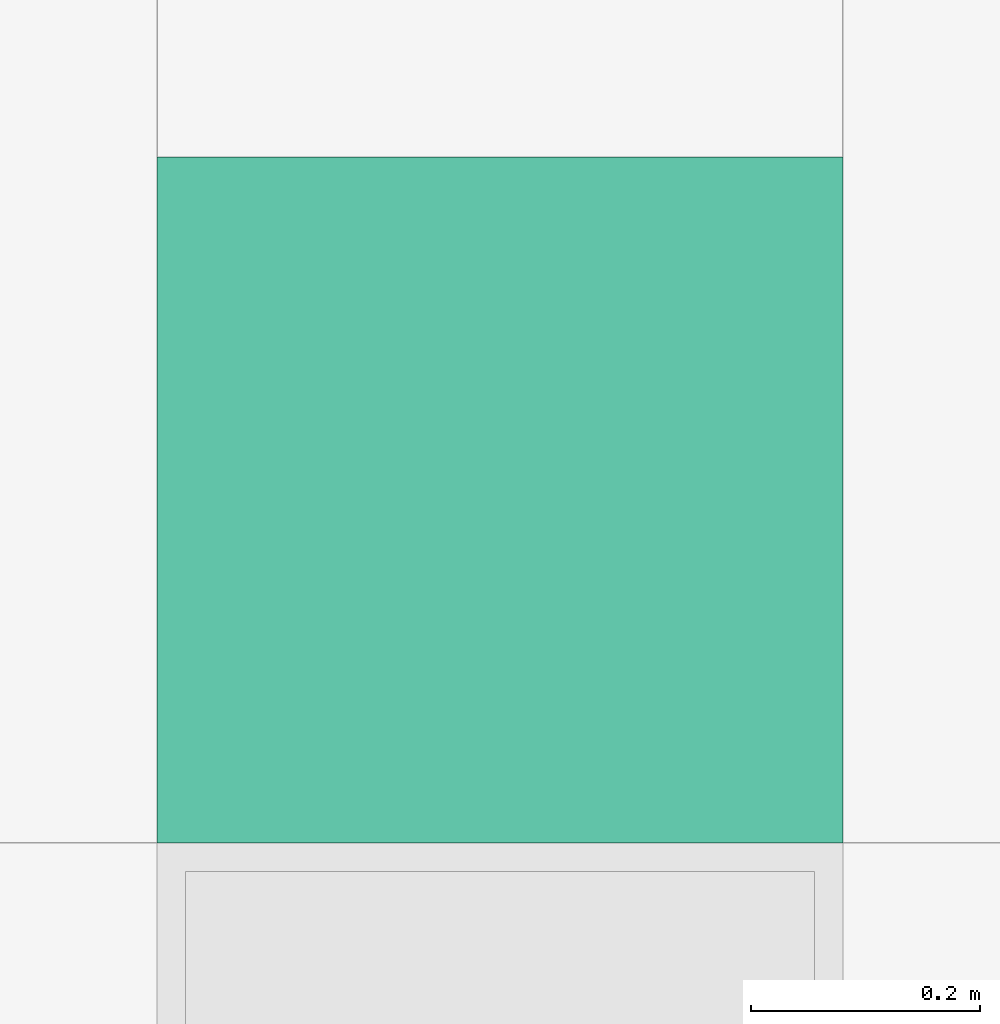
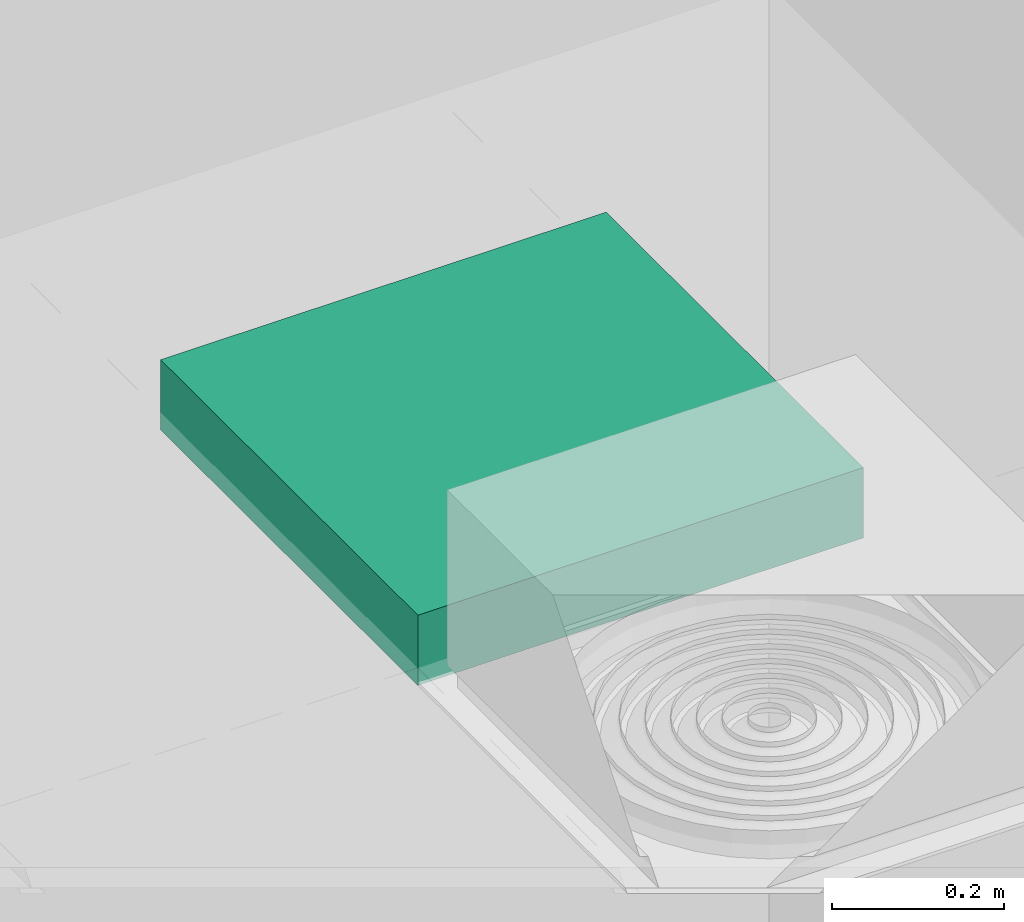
# One storey, part 288 of 347: 1 flow terminal.
"""IFC2X3 building model written with IfcOpenShell, lengths in millimetres."""

from ifc_helpers import new_model, entity, si_unit, converted_unit, derived_unit, money_unit, direction, frame, origin_with_axes, place, context, subcontext, project, spatial, open_shell, faceted_brep, surface_model, source, transform, mapped, type_object, type_shapes, element, save


model = new_model("IFC2X3")

# Units and contexts
model_context = context("Model", 3, precision=0.01, world=origin_with_axes(), true_north=direction((0.0, 1.0)))
plan_context = context("Plan", 3, precision=0.01, world=origin_with_axes(), true_north=direction((0.0, 1.0)))
body_context = subcontext(model_context, "Body", "Model", "MODEL_VIEW")
ifc_project = project(units=[si_unit("LENGTHUNIT", "METRE", prefix="MILLI"), si_unit("AREAUNIT", "SQUARE_METRE"), si_unit("VOLUMEUNIT", "CUBIC_METRE"), converted_unit("PLANEANGLEUNIT", "DEGREE", entity("IfcPlaneAngleMeasure", 0.0174532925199), si_unit("PLANEANGLEUNIT", "RADIAN"), dimensions=[0, 0, 0, 0, 0, 0, 0]), money_unit("EUR"), converted_unit("TIMEUNIT", "Year", entity("IfcTimeMeasure", 31556926.0), si_unit("TIMEUNIT", "SECOND"), dimensions=[0, 0, 1, 0, 0, 0, 0]), si_unit("MASSUNIT", "GRAM", prefix="KILO"), si_unit("THERMODYNAMICTEMPERATUREUNIT", "DEGREE_CELSIUS"), si_unit("LUMINOUSINTENSITYUNIT", "LUMEN"), si_unit("ENERGYUNIT", "JOULE", prefix="MEGA"), derived_unit("THERMALCONDUCTANCEUNIT", [(si_unit("POWERUNIT", "WATT"), 1), (si_unit("LENGTHUNIT", "METRE"), -1), (si_unit("THERMODYNAMICTEMPERATUREUNIT", "KELVIN"), -1)]), derived_unit("SPECIFICHEATCAPACITYUNIT", [(si_unit("ENERGYUNIT", "JOULE"), 1), (si_unit("MASSUNIT", "GRAM", prefix="KILO"), -1), (si_unit("THERMODYNAMICTEMPERATUREUNIT", "KELVIN"), -1)]), derived_unit("MASSDENSITYUNIT", [(si_unit("MASSUNIT", "GRAM", prefix="KILO"), 1), (si_unit("VOLUMEUNIT", "CUBIC_METRE"), -1)])], contexts=[model_context, plan_context])

# Site, building, storey
site_placement = place(None, origin_with_axes())
site = spatial("IfcSite", under=ifc_project, at=site_placement, Name="Site", CompositionType="ELEMENT")
building_placement = place(site_placement, origin_with_axes())
building = spatial("IfcBuilding", under=site, at=building_placement, Name="Naam gebouw", CompositionType="ELEMENT")
storey_placement = place(building_placement, origin_with_axes())
storey = spatial("IfcBuildingStorey", under=building, at=storey_placement, Name="begane grond", CompositionType="ELEMENT", Elevation=0.0)

# Flow terminal
lamp_type = type_object("IfcLampType", Name="TL plafond 25", PredefinedType="NOTDEFINED")
shared_shape = source(origin_with_axes(), body_context, "Body", "SurfaceModel", [
    faceted_brep([(0.0, 0.0, -100.0), (0.0, 0.0, 0.0), (-600.0, 0.0, 0.0), (-600.0, 0.0, -100.0), (0.0, 600.0, -100.0), (0.0, 600.0, 0.0), (-600.0, 600.0, 0.0), (-40.0, 40.0, 0.0), (-560.0, 40.0, 0.0), (-560.0, 560.0, 0.0), (-40.0, 560.0, 0.0), (-600.0, 600.0, -100.0), (-40.0, 40.0, -100.0), (-40.0, 560.0, -100.0), (-560.0, 560.0, -100.0), (-560.0, 40.0, -100.0)], [[[0, 1, 2, 3]], [[4, 5, 1, 0]], [[1, 5, 6, 2], [7, 8, 9, 10]], [[3, 2, 6, 11]], [[0, 3, 11, 4], [12, 13, 14, 15]], [[11, 6, 5, 4]], [[15, 8, 7, 12]], [[14, 9, 8, 15]], [[13, 10, 9, 14]], [[12, 7, 10, 13]]]),
    faceted_brep([(-40.0, 40.0, -16.3333333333), (-40.0, 40.0, 0.0), (-560.0, 40.0, 0.0), (-560.0, 40.0, -16.3333333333), (-40.0, 560.0, -16.3333333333), (-40.0, 560.0, 0.0), (-560.0, 560.0, 0.0), (-560.0, 560.0, -16.3333333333)], [[[0, 1, 2, 3]], [[4, 5, 1, 0]], [[1, 5, 6, 2]], [[3, 2, 6, 7]], [[0, 3, 7, 4]], [[7, 6, 5, 4]]]),
    surface_model("IfcShellBasedSurfaceModel", [(-559.0, 41.0, -100.0), (-559.0, 559.0, -100.0), (-40.0, 559.0, -100.0), (-40.0, 41.0, -100.0)], [open_shell([[[0, 1, 2, 3]]])]),
    faceted_brep([(-40.0, 40.0, -100.0), (-40.0, 40.0, -60.0), (-560.0, 40.0, -60.0), (-560.0, 40.0, -100.0), (-40.0, 560.0, -100.0), (-40.0, 560.0, -60.0), (-560.0, 560.0, -60.0), (-41.0, 41.0, -60.0), (-559.0, 41.0, -60.0), (-559.0, 559.0, -60.0), (-41.0, 559.0, -60.0), (-560.0, 560.0, -100.0), (-41.0, 41.0, -100.0), (-41.0, 559.0, -100.0), (-559.0, 559.0, -100.0), (-559.0, 41.0, -100.0)], [[[0, 1, 2, 3]], [[4, 5, 1, 0]], [[1, 5, 6, 2], [7, 8, 9, 10]], [[3, 2, 6, 11]], [[0, 3, 11, 4], [12, 13, 14, 15]], [[11, 6, 5, 4]], [[15, 8, 7, 12]], [[14, 9, 8, 15]], [[13, 10, 9, 14]], [[12, 7, 10, 13]]]),
    faceted_brep([(-40.0, 144.0, -48.3333333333), (-560.0, 144.0, -48.3333333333), (-560.0, 149.740251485, -47.191526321), (-40.0, 149.740251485, -47.191526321), (-40.0, 138.259748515, -47.191526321), (-560.0, 138.259748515, -47.191526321), (-560.0, 133.393398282, -43.9399350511), (-560.0, 130.141807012, -39.0735848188), (-560.0, 129.0, -33.3333333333), (-560.0, 130.141807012, -27.5930818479), (-560.0, 133.393398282, -22.7267316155), (-560.0, 138.259748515, -19.4751403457), (-560.0, 144.0, -18.3333333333), (-560.0, 149.740251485, -19.4751403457), (-560.0, 154.606601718, -22.7267316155), (-560.0, 157.858192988, -27.5930818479), (-560.0, 159.0, -33.3333333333), (-560.0, 157.858192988, -39.0735848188), (-560.0, 154.606601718, -43.9399350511), (-560.0, 144.0, -46.3333333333), (-560.0, 148.974884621, -45.343767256), (-560.0, 153.192388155, -42.5257214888), (-560.0, 156.010433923, -38.3082179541), (-560.0, 157.0, -33.3333333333), (-560.0, 156.010433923, -28.3584487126), (-560.0, 153.192388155, -24.1409451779), (-560.0, 148.974884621, -21.3228994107), (-560.0, 144.0, -20.3333333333), (-560.0, 139.025115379, -21.3228994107), (-560.0, 134.807611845, -24.1409451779), (-560.0, 131.989566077, -28.3584487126), (-560.0, 131.0, -33.3333333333), (-560.0, 131.989566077, -38.3082179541), (-560.0, 134.807611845, -42.5257214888), (-560.0, 139.025115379, -45.343767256), (-40.0, 154.606601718, -43.9399350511), (-40.0, 157.858192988, -39.0735848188), (-40.0, 159.0, -33.3333333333), (-40.0, 157.858192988, -27.5930818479), (-40.0, 154.606601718, -22.7267316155), (-40.0, 149.740251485, -19.4751403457), (-40.0, 144.0, -18.3333333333), (-40.0, 138.259748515, -19.4751403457), (-40.0, 133.393398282, -22.7267316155), (-40.0, 130.141807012, -27.5930818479), (-40.0, 129.0, -33.3333333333), (-40.0, 130.141807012, -39.0735848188), (-40.0, 133.393398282, -43.9399350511), (-40.0, 144.0, -46.3333333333), (-40.0, 139.025115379, -45.343767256), (-40.0, 134.807611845, -42.5257214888), (-40.0, 131.989566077, -38.3082179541), (-40.0, 131.0, -33.3333333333), (-40.0, 131.989566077, -28.3584487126), (-40.0, 134.807611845, -24.1409451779), (-40.0, 139.025115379, -21.3228994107), (-40.0, 144.0, -20.3333333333), (-40.0, 148.974884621, -21.3228994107), (-40.0, 153.192388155, -24.1409451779), (-40.0, 156.010433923, -28.3584487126), (-40.0, 157.0, -33.3333333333), (-40.0, 156.010433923, -38.3082179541), (-40.0, 153.192388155, -42.5257214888), (-40.0, 148.974884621, -45.343767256)], [[[0, 1, 2, 3]], [[4, 5, 1, 0]], [[1, 5, 6, 7, 8, 9, 10, 11, 12, 13, 14, 15, 16, 17, 18, 2], [19, 20, 21, 22, 23, 24, 25, 26, 27, 28, 29, 30, 31, 32, 33, 34]], [[3, 2, 18, 35]], [[0, 3, 35, 36, 37, 38, 39, 40, 41, 42, 43, 44, 45, 46, 47, 4], [48, 49, 50, 51, 52, 53, 54, 55, 56, 57, 58, 59, 60, 61, 62, 63]], [[47, 6, 5, 4]], [[46, 7, 6, 47]], [[45, 8, 7, 46]], [[44, 9, 8, 45]], [[43, 10, 9, 44]], [[42, 11, 10, 43]], [[41, 12, 11, 42]], [[40, 13, 12, 41]], [[39, 14, 13, 40]], [[38, 15, 14, 39]], [[37, 16, 15, 38]], [[36, 17, 16, 37]], [[35, 18, 17, 36]], [[63, 20, 19, 48]], [[62, 21, 20, 63]], [[61, 22, 21, 62]], [[60, 23, 22, 61]], [[59, 24, 23, 60]], [[58, 25, 24, 59]], [[57, 26, 25, 58]], [[56, 27, 26, 57]], [[55, 28, 27, 56]], [[54, 29, 28, 55]], [[53, 30, 29, 54]], [[52, 31, 30, 53]], [[51, 32, 31, 52]], [[50, 33, 32, 51]], [[49, 34, 33, 50]], [[48, 19, 34, 49]]]),
    faceted_brep([(-40.0, 248.0, -48.3333333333), (-560.0, 248.0, -48.3333333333), (-560.0, 253.740251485, -47.191526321), (-40.0, 253.740251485, -47.191526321), (-40.0, 242.259748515, -47.191526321), (-560.0, 242.259748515, -47.191526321), (-560.0, 237.393398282, -43.9399350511), (-560.0, 234.141807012, -39.0735848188), (-560.0, 233.0, -33.3333333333), (-560.0, 234.141807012, -27.5930818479), (-560.0, 237.393398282, -22.7267316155), (-560.0, 242.259748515, -19.4751403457), (-560.0, 248.0, -18.3333333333), (-560.0, 253.740251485, -19.4751403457), (-560.0, 258.606601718, -22.7267316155), (-560.0, 261.858192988, -27.5930818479), (-560.0, 263.0, -33.3333333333), (-560.0, 261.858192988, -39.0735848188), (-560.0, 258.606601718, -43.9399350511), (-560.0, 248.0, -46.3333333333), (-560.0, 252.974884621, -45.343767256), (-560.0, 257.192388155, -42.5257214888), (-560.0, 260.010433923, -38.3082179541), (-560.0, 261.0, -33.3333333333), (-560.0, 260.010433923, -28.3584487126), (-560.0, 257.192388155, -24.1409451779), (-560.0, 252.974884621, -21.3228994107), (-560.0, 248.0, -20.3333333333), (-560.0, 243.025115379, -21.3228994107), (-560.0, 238.807611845, -24.1409451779), (-560.0, 235.989566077, -28.3584487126), (-560.0, 235.0, -33.3333333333), (-560.0, 235.989566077, -38.3082179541), (-560.0, 238.807611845, -42.5257214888), (-560.0, 243.025115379, -45.343767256), (-40.0, 258.606601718, -43.9399350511), (-40.0, 261.858192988, -39.0735848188), (-40.0, 263.0, -33.3333333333), (-40.0, 261.858192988, -27.5930818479), (-40.0, 258.606601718, -22.7267316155), (-40.0, 253.740251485, -19.4751403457), (-40.0, 248.0, -18.3333333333), (-40.0, 242.259748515, -19.4751403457), (-40.0, 237.393398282, -22.7267316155), (-40.0, 234.141807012, -27.5930818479), (-40.0, 233.0, -33.3333333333), (-40.0, 234.141807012, -39.0735848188), (-40.0, 237.393398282, -43.9399350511), (-40.0, 248.0, -46.3333333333), (-40.0, 243.025115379, -45.343767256), (-40.0, 238.807611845, -42.5257214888), (-40.0, 235.989566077, -38.3082179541), (-40.0, 235.0, -33.3333333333), (-40.0, 235.989566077, -28.3584487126), (-40.0, 238.807611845, -24.1409451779), (-40.0, 243.025115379, -21.3228994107), (-40.0, 248.0, -20.3333333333), (-40.0, 252.974884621, -21.3228994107), (-40.0, 257.192388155, -24.1409451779), (-40.0, 260.010433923, -28.3584487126), (-40.0, 261.0, -33.3333333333), (-40.0, 260.010433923, -38.3082179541), (-40.0, 257.192388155, -42.5257214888), (-40.0, 252.974884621, -45.343767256)], [[[0, 1, 2, 3]], [[4, 5, 1, 0]], [[1, 5, 6, 7, 8, 9, 10, 11, 12, 13, 14, 15, 16, 17, 18, 2], [19, 20, 21, 22, 23, 24, 25, 26, 27, 28, 29, 30, 31, 32, 33, 34]], [[3, 2, 18, 35]], [[0, 3, 35, 36, 37, 38, 39, 40, 41, 42, 43, 44, 45, 46, 47, 4], [48, 49, 50, 51, 52, 53, 54, 55, 56, 57, 58, 59, 60, 61, 62, 63]], [[47, 6, 5, 4]], [[46, 7, 6, 47]], [[45, 8, 7, 46]], [[44, 9, 8, 45]], [[43, 10, 9, 44]], [[42, 11, 10, 43]], [[41, 12, 11, 42]], [[40, 13, 12, 41]], [[39, 14, 13, 40]], [[38, 15, 14, 39]], [[37, 16, 15, 38]], [[36, 17, 16, 37]], [[35, 18, 17, 36]], [[63, 20, 19, 48]], [[62, 21, 20, 63]], [[61, 22, 21, 62]], [[60, 23, 22, 61]], [[59, 24, 23, 60]], [[58, 25, 24, 59]], [[57, 26, 25, 58]], [[56, 27, 26, 57]], [[55, 28, 27, 56]], [[54, 29, 28, 55]], [[53, 30, 29, 54]], [[52, 31, 30, 53]], [[51, 32, 31, 52]], [[50, 33, 32, 51]], [[49, 34, 33, 50]], [[48, 19, 34, 49]]]),
    faceted_brep([(-40.0, 352.0, -48.3333333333), (-560.0, 352.0, -48.3333333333), (-560.0, 357.740251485, -47.191526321), (-40.0, 357.740251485, -47.191526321), (-40.0, 346.259748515, -47.191526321), (-560.0, 346.259748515, -47.191526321), (-560.0, 341.393398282, -43.9399350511), (-560.0, 338.141807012, -39.0735848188), (-560.0, 337.0, -33.3333333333), (-560.0, 338.141807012, -27.5930818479), (-560.0, 341.393398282, -22.7267316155), (-560.0, 346.259748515, -19.4751403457), (-560.0, 352.0, -18.3333333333), (-560.0, 357.740251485, -19.4751403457), (-560.0, 362.606601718, -22.7267316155), (-560.0, 365.858192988, -27.5930818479), (-560.0, 367.0, -33.3333333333), (-560.0, 365.858192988, -39.0735848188), (-560.0, 362.606601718, -43.9399350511), (-560.0, 352.0, -46.3333333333), (-560.0, 356.974884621, -45.343767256), (-560.0, 361.192388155, -42.5257214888), (-560.0, 364.010433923, -38.3082179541), (-560.0, 365.0, -33.3333333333), (-560.0, 364.010433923, -28.3584487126), (-560.0, 361.192388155, -24.1409451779), (-560.0, 356.974884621, -21.3228994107), (-560.0, 352.0, -20.3333333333), (-560.0, 347.025115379, -21.3228994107), (-560.0, 342.807611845, -24.1409451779), (-560.0, 339.989566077, -28.3584487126), (-560.0, 339.0, -33.3333333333), (-560.0, 339.989566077, -38.3082179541), (-560.0, 342.807611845, -42.5257214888), (-560.0, 347.025115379, -45.343767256), (-40.0, 362.606601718, -43.9399350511), (-40.0, 365.858192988, -39.0735848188), (-40.0, 367.0, -33.3333333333), (-40.0, 365.858192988, -27.5930818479), (-40.0, 362.606601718, -22.7267316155), (-40.0, 357.740251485, -19.4751403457), (-40.0, 352.0, -18.3333333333), (-40.0, 346.259748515, -19.4751403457), (-40.0, 341.393398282, -22.7267316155), (-40.0, 338.141807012, -27.5930818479), (-40.0, 337.0, -33.3333333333), (-40.0, 338.141807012, -39.0735848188), (-40.0, 341.393398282, -43.9399350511), (-40.0, 352.0, -46.3333333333), (-40.0, 347.025115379, -45.343767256), (-40.0, 342.807611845, -42.5257214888), (-40.0, 339.989566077, -38.3082179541), (-40.0, 339.0, -33.3333333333), (-40.0, 339.989566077, -28.3584487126), (-40.0, 342.807611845, -24.1409451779), (-40.0, 347.025115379, -21.3228994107), (-40.0, 352.0, -20.3333333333), (-40.0, 356.974884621, -21.3228994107), (-40.0, 361.192388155, -24.1409451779), (-40.0, 364.010433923, -28.3584487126), (-40.0, 365.0, -33.3333333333), (-40.0, 364.010433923, -38.3082179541), (-40.0, 361.192388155, -42.5257214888), (-40.0, 356.974884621, -45.343767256)], [[[0, 1, 2, 3]], [[4, 5, 1, 0]], [[1, 5, 6, 7, 8, 9, 10, 11, 12, 13, 14, 15, 16, 17, 18, 2], [19, 20, 21, 22, 23, 24, 25, 26, 27, 28, 29, 30, 31, 32, 33, 34]], [[3, 2, 18, 35]], [[0, 3, 35, 36, 37, 38, 39, 40, 41, 42, 43, 44, 45, 46, 47, 4], [48, 49, 50, 51, 52, 53, 54, 55, 56, 57, 58, 59, 60, 61, 62, 63]], [[47, 6, 5, 4]], [[46, 7, 6, 47]], [[45, 8, 7, 46]], [[44, 9, 8, 45]], [[43, 10, 9, 44]], [[42, 11, 10, 43]], [[41, 12, 11, 42]], [[40, 13, 12, 41]], [[39, 14, 13, 40]], [[38, 15, 14, 39]], [[37, 16, 15, 38]], [[36, 17, 16, 37]], [[35, 18, 17, 36]], [[63, 20, 19, 48]], [[62, 21, 20, 63]], [[61, 22, 21, 62]], [[60, 23, 22, 61]], [[59, 24, 23, 60]], [[58, 25, 24, 59]], [[57, 26, 25, 58]], [[56, 27, 26, 57]], [[55, 28, 27, 56]], [[54, 29, 28, 55]], [[53, 30, 29, 54]], [[52, 31, 30, 53]], [[51, 32, 31, 52]], [[50, 33, 32, 51]], [[49, 34, 33, 50]], [[48, 19, 34, 49]]]),
    faceted_brep([(-40.0, 456.0, -48.3333333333), (-560.0, 456.0, -48.3333333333), (-560.0, 461.740251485, -47.191526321), (-40.0, 461.740251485, -47.191526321), (-40.0, 450.259748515, -47.191526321), (-560.0, 450.259748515, -47.191526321), (-560.0, 445.393398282, -43.9399350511), (-560.0, 442.141807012, -39.0735848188), (-560.0, 441.0, -33.3333333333), (-560.0, 442.141807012, -27.5930818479), (-560.0, 445.393398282, -22.7267316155), (-560.0, 450.259748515, -19.4751403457), (-560.0, 456.0, -18.3333333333), (-560.0, 461.740251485, -19.4751403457), (-560.0, 466.606601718, -22.7267316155), (-560.0, 469.858192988, -27.5930818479), (-560.0, 471.0, -33.3333333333), (-560.0, 469.858192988, -39.0735848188), (-560.0, 466.606601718, -43.9399350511), (-560.0, 456.0, -46.3333333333), (-560.0, 460.974884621, -45.343767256), (-560.0, 465.192388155, -42.5257214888), (-560.0, 468.010433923, -38.3082179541), (-560.0, 469.0, -33.3333333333), (-560.0, 468.010433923, -28.3584487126), (-560.0, 465.192388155, -24.1409451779), (-560.0, 460.974884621, -21.3228994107), (-560.0, 456.0, -20.3333333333), (-560.0, 451.025115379, -21.3228994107), (-560.0, 446.807611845, -24.1409451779), (-560.0, 443.989566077, -28.3584487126), (-560.0, 443.0, -33.3333333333), (-560.0, 443.989566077, -38.3082179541), (-560.0, 446.807611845, -42.5257214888), (-560.0, 451.025115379, -45.343767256), (-40.0, 466.606601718, -43.9399350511), (-40.0, 469.858192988, -39.0735848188), (-40.0, 471.0, -33.3333333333), (-40.0, 469.858192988, -27.5930818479), (-40.0, 466.606601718, -22.7267316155), (-40.0, 461.740251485, -19.4751403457), (-40.0, 456.0, -18.3333333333), (-40.0, 450.259748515, -19.4751403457), (-40.0, 445.393398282, -22.7267316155), (-40.0, 442.141807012, -27.5930818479), (-40.0, 441.0, -33.3333333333), (-40.0, 442.141807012, -39.0735848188), (-40.0, 445.393398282, -43.9399350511), (-40.0, 456.0, -46.3333333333), (-40.0, 451.025115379, -45.343767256), (-40.0, 446.807611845, -42.5257214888), (-40.0, 443.989566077, -38.3082179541), (-40.0, 443.0, -33.3333333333), (-40.0, 443.989566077, -28.3584487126), (-40.0, 446.807611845, -24.1409451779), (-40.0, 451.025115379, -21.3228994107), (-40.0, 456.0, -20.3333333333), (-40.0, 460.974884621, -21.3228994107), (-40.0, 465.192388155, -24.1409451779), (-40.0, 468.010433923, -28.3584487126), (-40.0, 469.0, -33.3333333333), (-40.0, 468.010433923, -38.3082179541), (-40.0, 465.192388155, -42.5257214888), (-40.0, 460.974884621, -45.343767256)], [[[0, 1, 2, 3]], [[4, 5, 1, 0]], [[1, 5, 6, 7, 8, 9, 10, 11, 12, 13, 14, 15, 16, 17, 18, 2], [19, 20, 21, 22, 23, 24, 25, 26, 27, 28, 29, 30, 31, 32, 33, 34]], [[3, 2, 18, 35]], [[0, 3, 35, 36, 37, 38, 39, 40, 41, 42, 43, 44, 45, 46, 47, 4], [48, 49, 50, 51, 52, 53, 54, 55, 56, 57, 58, 59, 60, 61, 62, 63]], [[47, 6, 5, 4]], [[46, 7, 6, 47]], [[45, 8, 7, 46]], [[44, 9, 8, 45]], [[43, 10, 9, 44]], [[42, 11, 10, 43]], [[41, 12, 11, 42]], [[40, 13, 12, 41]], [[39, 14, 13, 40]], [[38, 15, 14, 39]], [[37, 16, 15, 38]], [[36, 17, 16, 37]], [[35, 18, 17, 36]], [[63, 20, 19, 48]], [[62, 21, 20, 63]], [[61, 22, 21, 62]], [[60, 23, 22, 61]], [[59, 24, 23, 60]], [[58, 25, 24, 59]], [[57, 26, 25, 58]], [[56, 27, 26, 57]], [[55, 28, 27, 56]], [[54, 29, 28, 55]], [[53, 30, 29, 54]], [[52, 31, 30, 53]], [[51, 32, 31, 52]], [[50, 33, 32, 51]], [[49, 34, 33, 50]], [[48, 19, 34, 49]]]),
])
type_shapes(lamp_type, [shared_shape])
flow_terminal_placement = place(storey_placement, frame((47500.0, 40087.5, 2695.0), z_axis=(0.0, 0.0, 1.0), x_axis=(1.0, 0.0, 0.0)))
element("IfcFlowTerminal", 1, at=flow_terminal_placement, inside=storey, type_object=lamp_type, Name="63_Lamp-x", ObjectType="Lamp", context=body_context, shape_type="MappedRepresentation", body=[
    mapped(shared_shape, transform((0.0, 0.0, 0.0))),
])

save(model, "model.ifc")
